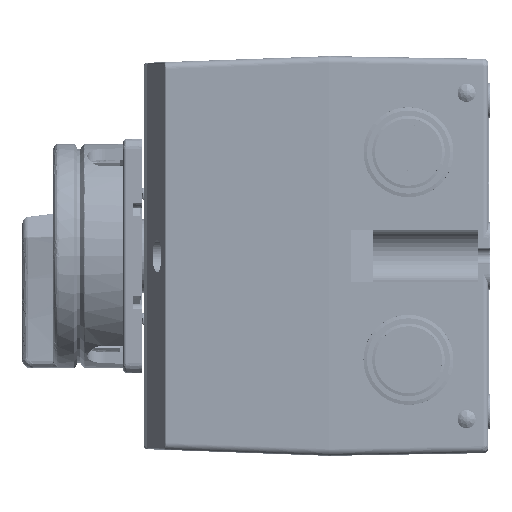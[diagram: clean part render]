
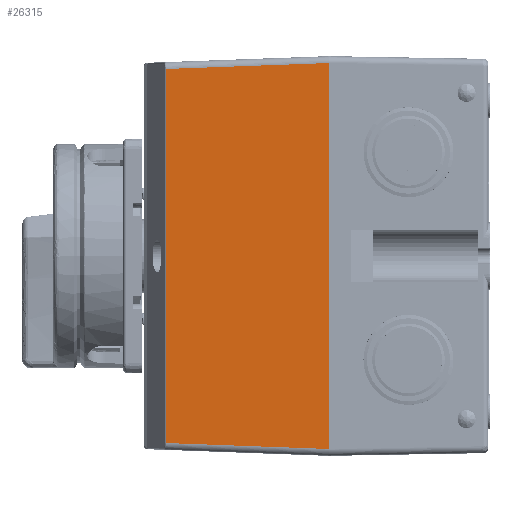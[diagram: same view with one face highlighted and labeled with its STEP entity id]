
A CAD part, left-side view. The second image highlights one B-rep face of the part: STEP entity #26315.
In plain terms, the highlighted planar face has unit normal (-0.999, 0.037, 0).
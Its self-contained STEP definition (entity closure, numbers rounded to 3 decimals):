
#783 = PLANE ( 'NONE',  #85554 ) ;
#1913 = CARTESIAN_POINT ( 'NONE',  ( -86.278, 92.969, 0. ) ) ;
#7362 = CARTESIAN_POINT ( 'NONE',  ( -86.278, 92.969, -54.029 ) ) ;
#7367 = ORIENTED_EDGE ( 'NONE', *, *, #48710, .T. ) ;
#9918 = VECTOR ( 'NONE', #83277, 1000. ) ;
#14594 = ORIENTED_EDGE ( 'NONE', *, *, #118568, .T. ) ;
#20880 = CARTESIAN_POINT ( 'NONE',  ( -87.132, 69.672, 54.883 ) ) ;
#26315 = ADVANCED_FACE ( 'NONE', ( #121535 ), #783, .T. ) ;
#27101 = VERTEX_POINT ( 'NONE', #109495 ) ;
#28735 = EDGE_CURVE ( 'NONE', #94631, #88818, #100446, .T. ) ;
#29399 = ORIENTED_EDGE ( 'NONE', *, *, #194026, .T. ) ;
#31439 = CARTESIAN_POINT ( 'NONE',  ( -88.034, 45.061, -57.981 ) ) ;
#45543 = CARTESIAN_POINT ( 'NONE',  ( -86.278, 92.969, -54.029 ) ) ;
#47393 = CARTESIAN_POINT ( 'NONE',  ( -88., 46., 0. ) ) ;
#48710 = EDGE_CURVE ( 'NONE', #88818, #27101, #140577, .T. ) ;
#55638 = ORIENTED_EDGE ( 'NONE', *, *, #28735, .T. ) ;
#56021 = VECTOR ( 'NONE', #110364, 1000. ) ;
#83277 = DIRECTION ( 'NONE',  ( 0.037, 0.999, -0.037 ) ) ;
#85554 = AXIS2_PLACEMENT_3D ( 'NONE', #31439, #89790, #170662 ) ;
#88093 = DIRECTION ( 'NONE',  ( -0.037, -0.999, -0.037 ) ) ;
#88818 = VERTEX_POINT ( 'NONE', #176290 ) ;
#89790 = DIRECTION ( 'NONE',  ( -0.999, 0.037, 0. ) ) ;
#94631 = VERTEX_POINT ( 'NONE', #45543 ) ;
#98644 = LINE ( 'NONE', #20880, #9918 ) ;
#98996 = VECTOR ( 'NONE', #88093, 1000. ) ;
#100446 = LINE ( 'NONE', #7362, #98996 ) ;
#104581 = EDGE_LOOP ( 'NONE', ( #7367, #29399, #14594, #55638 ) ) ;
#109495 = CARTESIAN_POINT ( 'NONE',  ( -88., 46., 55.751 ) ) ;
#110364 = DIRECTION ( 'NONE',  ( 0., 0., -1. ) ) ;
#113558 = VERTEX_POINT ( 'NONE', #124184 ) ;
#118568 = EDGE_CURVE ( 'NONE', #113558, #94631, #155445, .T. ) ;
#121535 = FACE_OUTER_BOUND ( 'NONE', #104581, .T. ) ;
#124184 = CARTESIAN_POINT ( 'NONE',  ( -86.278, 92.969, 54.029 ) ) ;
#137539 = DIRECTION ( 'NONE',  ( 0., 0., 1. ) ) ;
#140577 = LINE ( 'NONE', #47393, #165995 ) ;
#155445 = LINE ( 'NONE', #1913, #56021 ) ;
#165995 = VECTOR ( 'NONE', #137539, 1000. ) ;
#170662 = DIRECTION ( 'NONE',  ( 0., 0., 1. ) ) ;
#176290 = CARTESIAN_POINT ( 'NONE',  ( -88., 46., -55.751 ) ) ;
#194026 = EDGE_CURVE ( 'NONE', #27101, #113558, #98644, .T. ) ;
